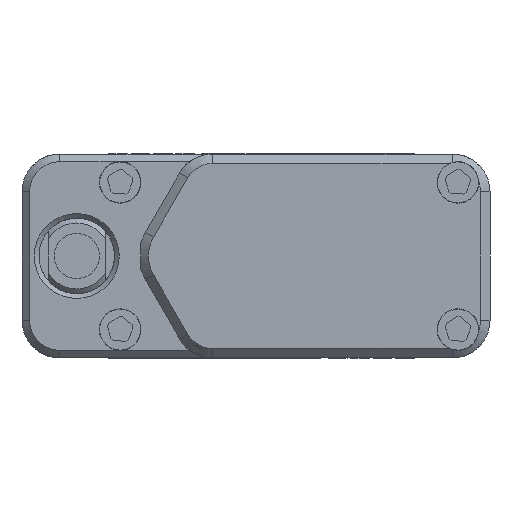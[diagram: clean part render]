
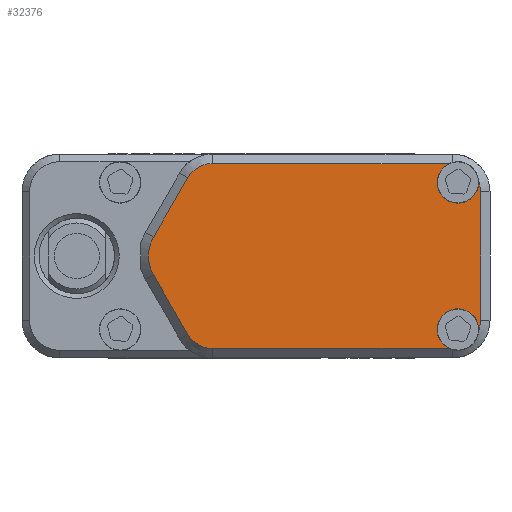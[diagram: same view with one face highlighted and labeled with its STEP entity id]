
A CAD part, front view. The second image highlights one B-rep face of the part: STEP entity #32376.
In plain terms, the highlighted planar face has unit normal (0, -1, 0).
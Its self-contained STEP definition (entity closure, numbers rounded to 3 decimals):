
#1316 = CIRCLE ( 'NONE', #15876, 1.5 ) ;
#1374 = CARTESIAN_POINT ( 'NONE',  ( -5.432, 6.7, -1. ) ) ;
#1589 = CARTESIAN_POINT ( 'NONE',  ( 11.799, 6.7, -3.94 ) ) ;
#2836 = CIRCLE ( 'NONE', #39567, 1.5 ) ;
#3275 = DIRECTION ( 'NONE',  ( 0., 0., -1. ) ) ;
#3812 = EDGE_CURVE ( 'NONE', #40746, #27893, #4170, .T. ) ;
#4090 = VECTOR ( 'NONE', #33635, 1000. ) ;
#4121 = AXIS2_PLACEMENT_3D ( 'NONE', #29334, #19583, #35428 ) ;
#4170 = LINE ( 'NONE', #40404, #8882 ) ;
#4732 = EDGE_CURVE ( 'NONE', #8130, #14818, #26245, .T. ) ;
#5042 = VERTEX_POINT ( 'NONE', #26866 ) ;
#6126 = ORIENTED_EDGE ( 'NONE', *, *, #26056, .T. ) ;
#6517 = EDGE_CURVE ( 'NONE', #27893, #40354, #23264, .T. ) ;
#6741 = DIRECTION ( 'NONE',  ( 0., -1., 0. ) ) ;
#6823 = ORIENTED_EDGE ( 'NONE', *, *, #4732, .T. ) ;
#7007 = EDGE_CURVE ( 'NONE', #14818, #7367, #18511, .T. ) ;
#7367 = VERTEX_POINT ( 'NONE', #38574 ) ;
#7501 = AXIS2_PLACEMENT_3D ( 'NONE', #38835, #32110, #38200 ) ;
#7534 = CARTESIAN_POINT ( 'NONE',  ( 0., 6.7, -4.9 ) ) ;
#8067 = CARTESIAN_POINT ( 'NONE',  ( 11.9, 6.7, 0. ) ) ;
#8130 = VERTEX_POINT ( 'NONE', #1589 ) ;
#8342 = VECTOR ( 'NONE', #30977, 1000. ) ;
#8726 = CARTESIAN_POINT ( 'NONE',  ( 10.242, 6.7, 4.9 ) ) ;
#8882 = VECTOR ( 'NONE', #29800, 1000. ) ;
#10715 = CARTESIAN_POINT ( 'NONE',  ( 10.4, 6.7, 3.4 ) ) ;
#11059 = CARTESIAN_POINT ( 'NONE',  ( -3.613, 6.7, -4.15 ) ) ;
#11594 = DIRECTION ( 'NONE',  ( 0., -1., 0. ) ) ;
#11961 = CARTESIAN_POINT ( 'NONE',  ( 11.9, 6.7, -3.4 ) ) ;
#12286 = CIRCLE ( 'NONE', #23386, 1.5 ) ;
#13428 = CARTESIAN_POINT ( 'NONE',  ( -2.314, 6.7, -3.4 ) ) ;
#13787 = DIRECTION ( 'NONE',  ( 0., 0., -1. ) ) ;
#13876 = CARTESIAN_POINT ( 'NONE',  ( -3.613, 6.7, -4.15 ) ) ;
#14818 = VERTEX_POINT ( 'NONE', #11961 ) ;
#14842 = EDGE_CURVE ( 'NONE', #40354, #30580, #16735, .T. ) ;
#15876 = AXIS2_PLACEMENT_3D ( 'NONE', #13428, #19948, #33207 ) ;
#15941 = CARTESIAN_POINT ( 'NONE',  ( 10.7, 6.7, 3.9 ) ) ;
#16152 = DIRECTION ( 'NONE',  ( 0., 0., -1. ) ) ;
#16735 = LINE ( 'NONE', #13876, #4090 ) ;
#17052 = AXIS2_PLACEMENT_3D ( 'NONE', #40900, #34185, #13787 ) ;
#17301 = CARTESIAN_POINT ( 'NONE',  ( 0., 6.7, 0. ) ) ;
#17669 = VERTEX_POINT ( 'NONE', #8726 ) ;
#17691 = DIRECTION ( 'NONE',  ( 0., 0., -1. ) ) ;
#18511 = LINE ( 'NONE', #8067, #29557 ) ;
#19583 = DIRECTION ( 'NONE',  ( 0., -1., 0. ) ) ;
#19774 = CARTESIAN_POINT ( 'NONE',  ( -2.314, 6.7, 3.4 ) ) ;
#19948 = DIRECTION ( 'NONE',  ( 0., -1., 0. ) ) ;
#20172 = EDGE_CURVE ( 'NONE', #17669, #5042, #34229, .T. ) ;
#21009 = ORIENTED_EDGE ( 'NONE', *, *, #6517, .T. ) ;
#21971 = DIRECTION ( 'NONE',  ( 0., 0., 1. ) ) ;
#22863 = ORIENTED_EDGE ( 'NONE', *, *, #35727, .F. ) ;
#22950 = CARTESIAN_POINT ( 'NONE',  ( -5.432, 6.7, 1. ) ) ;
#22985 = EDGE_LOOP ( 'NONE', ( #23315, #33391, #27786, #36210, #6126, #41033, #21009, #38193, #31100, #27615, #22863, #6823 ) ) ;
#23264 = CIRCLE ( 'NONE', #17052, 2. ) ;
#23315 = ORIENTED_EDGE ( 'NONE', *, *, #7007, .T. ) ;
#23386 = AXIS2_PLACEMENT_3D ( 'NONE', #10715, #11594, #17691 ) ;
#23789 = PLANE ( 'NONE',  #40136 ) ;
#24673 = CIRCLE ( 'NONE', #35780, 1.1 ) ;
#24973 = CARTESIAN_POINT ( 'NONE',  ( 11.799, 6.7, 3.94 ) ) ;
#25910 = DIRECTION ( 'NONE',  ( 0., -1., 0. ) ) ;
#26056 = EDGE_CURVE ( 'NONE', #5042, #40746, #2836, .T. ) ;
#26245 = CIRCLE ( 'NONE', #7501, 1.5 ) ;
#26866 = CARTESIAN_POINT ( 'NONE',  ( -2.314, 6.7, 4.9 ) ) ;
#27064 = FACE_OUTER_BOUND ( 'NONE', #22985, .T. ) ;
#27093 = CARTESIAN_POINT ( 'NONE',  ( 0., 6.7, 4.9 ) ) ;
#27615 = ORIENTED_EDGE ( 'NONE', *, *, #30913, .T. ) ;
#27786 = ORIENTED_EDGE ( 'NONE', *, *, #39624, .F. ) ;
#27893 = VERTEX_POINT ( 'NONE', #22950 ) ;
#29334 = CARTESIAN_POINT ( 'NONE',  ( 10.7, 6.7, -3.9 ) ) ;
#29557 = VECTOR ( 'NONE', #21971, 1000. ) ;
#29733 = EDGE_CURVE ( 'NONE', #7367, #30628, #12286, .T. ) ;
#29800 = DIRECTION ( 'NONE',  ( -0.5, 0., -0.866 ) ) ;
#30580 = VERTEX_POINT ( 'NONE', #11059 ) ;
#30628 = VERTEX_POINT ( 'NONE', #24973 ) ;
#30913 = EDGE_CURVE ( 'NONE', #35277, #40913, #40959, .T. ) ;
#30977 = DIRECTION ( 'NONE',  ( -1., 0., 0. ) ) ;
#31100 = ORIENTED_EDGE ( 'NONE', *, *, #31964, .T. ) ;
#31291 = CARTESIAN_POINT ( 'NONE',  ( -3.613, 6.7, 4.15 ) ) ;
#31964 = EDGE_CURVE ( 'NONE', #30580, #35277, #1316, .T. ) ;
#32110 = DIRECTION ( 'NONE',  ( 0., -1., 0. ) ) ;
#32376 = ADVANCED_FACE ( 'NONE', ( #27064 ), #23789, .T. ) ;
#33189 = VECTOR ( 'NONE', #40736, 1000. ) ;
#33207 = DIRECTION ( 'NONE',  ( 0., 0., -1. ) ) ;
#33391 = ORIENTED_EDGE ( 'NONE', *, *, #29733, .T. ) ;
#33635 = DIRECTION ( 'NONE',  ( 0.5, 0., -0.866 ) ) ;
#34185 = DIRECTION ( 'NONE',  ( 0., -1., 0. ) ) ;
#34229 = LINE ( 'NONE', #27093, #8342 ) ;
#34616 = CIRCLE ( 'NONE', #4121, 1.1 ) ;
#35277 = VERTEX_POINT ( 'NONE', #37853 ) ;
#35428 = DIRECTION ( 'NONE',  ( 0., 0., -1. ) ) ;
#35727 = EDGE_CURVE ( 'NONE', #8130, #40913, #34616, .T. ) ;
#35780 = AXIS2_PLACEMENT_3D ( 'NONE', #15941, #25910, #16152 ) ;
#36210 = ORIENTED_EDGE ( 'NONE', *, *, #20172, .T. ) ;
#36237 = CARTESIAN_POINT ( 'NONE',  ( 10.242, 6.7, -4.9 ) ) ;
#37017 = DIRECTION ( 'NONE',  ( 0., 0., -1. ) ) ;
#37660 = DIRECTION ( 'NONE',  ( 0., -1., 0. ) ) ;
#37853 = CARTESIAN_POINT ( 'NONE',  ( -2.314, 6.7, -4.9 ) ) ;
#38193 = ORIENTED_EDGE ( 'NONE', *, *, #14842, .T. ) ;
#38200 = DIRECTION ( 'NONE',  ( 0., 0., -1. ) ) ;
#38574 = CARTESIAN_POINT ( 'NONE',  ( 11.9, 6.7, 3.4 ) ) ;
#38835 = CARTESIAN_POINT ( 'NONE',  ( 10.4, 6.7, -3.4 ) ) ;
#39567 = AXIS2_PLACEMENT_3D ( 'NONE', #19774, #6741, #3275 ) ;
#39624 = EDGE_CURVE ( 'NONE', #17669, #30628, #24673, .T. ) ;
#40136 = AXIS2_PLACEMENT_3D ( 'NONE', #17301, #37660, #37017 ) ;
#40354 = VERTEX_POINT ( 'NONE', #1374 ) ;
#40404 = CARTESIAN_POINT ( 'NONE',  ( -4.507, 6.7, 2.602 ) ) ;
#40736 = DIRECTION ( 'NONE',  ( 1., 0., 0. ) ) ;
#40746 = VERTEX_POINT ( 'NONE', #31291 ) ;
#40900 = CARTESIAN_POINT ( 'NONE',  ( -3.7, 6.7, 0. ) ) ;
#40913 = VERTEX_POINT ( 'NONE', #36237 ) ;
#40959 = LINE ( 'NONE', #7534, #33189 ) ;
#41033 = ORIENTED_EDGE ( 'NONE', *, *, #3812, .T. ) ;
